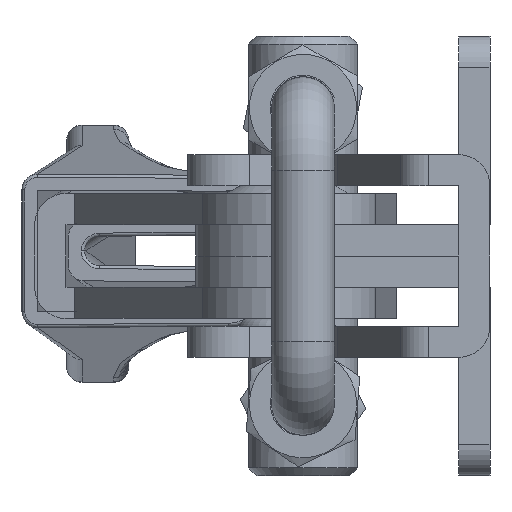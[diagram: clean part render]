
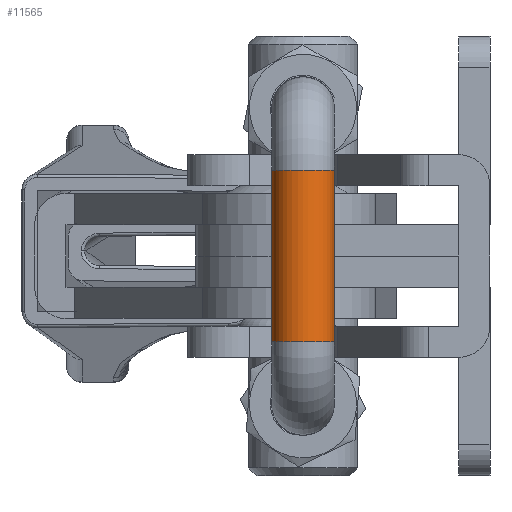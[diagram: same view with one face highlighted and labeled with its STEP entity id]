
A CAD part, left-side view. The second image highlights one B-rep face of the part: STEP entity #11565.
In plain terms, the highlighted cylindrical face has radius 2 mm (diameter 4 mm), a full revolution.
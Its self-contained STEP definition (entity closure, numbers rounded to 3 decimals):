
#1414=FACE_OUTER_BOUND('',#2063,.T.);
#2063=EDGE_LOOP('',(#8354,#8355,#8356,#8357,#8358,#8359,#8360));
#2691=CIRCLE('',#12444,2.);
#2692=CIRCLE('',#12445,2.);
#2693=CIRCLE('',#12446,2.);
#2694=CIRCLE('',#12448,2.);
#2695=CIRCLE('',#12449,2.);
#3005=LINE('',#34137,#3913);
#3913=VECTOR('',#13492,2.);
#4939=VERTEX_POINT('',#34128);
#4940=VERTEX_POINT('',#34130);
#4941=VERTEX_POINT('',#34132);
#4942=VERTEX_POINT('',#34136);
#4943=VERTEX_POINT('',#34138);
#6258=EDGE_CURVE('',#4939,#4940,#2691,.T.);
#6259=EDGE_CURVE('',#4940,#4941,#2692,.T.);
#6260=EDGE_CURVE('',#4941,#4939,#2693,.T.);
#6261=EDGE_CURVE('',#4941,#4942,#3005,.T.);
#6262=EDGE_CURVE('',#4942,#4943,#2694,.T.);
#6263=EDGE_CURVE('',#4943,#4942,#2695,.T.);
#8354=ORIENTED_EDGE('',*,*,#6259,.F.);
#8355=ORIENTED_EDGE('',*,*,#6258,.F.);
#8356=ORIENTED_EDGE('',*,*,#6260,.F.);
#8357=ORIENTED_EDGE('',*,*,#6261,.T.);
#8358=ORIENTED_EDGE('',*,*,#6262,.T.);
#8359=ORIENTED_EDGE('',*,*,#6263,.T.);
#8360=ORIENTED_EDGE('',*,*,#6261,.F.);
#11356=CYLINDRICAL_SURFACE('',#12447,2.);
#11565=ADVANCED_FACE('',(#1414),#11356,.T.);
#12444=AXIS2_PLACEMENT_3D('',#34131,#13484,#13485);
#12445=AXIS2_PLACEMENT_3D('',#34133,#13486,#13487);
#12446=AXIS2_PLACEMENT_3D('',#34134,#13488,#13489);
#12447=AXIS2_PLACEMENT_3D('',#34135,#13490,#13491);
#12448=AXIS2_PLACEMENT_3D('',#34139,#13493,#13494);
#12449=AXIS2_PLACEMENT_3D('',#34140,#13495,#13496);
#13484=DIRECTION('center_axis',(0.,1.,0.));
#13485=DIRECTION('ref_axis',(0.,0.,-1.));
#13486=DIRECTION('center_axis',(0.,1.,0.));
#13487=DIRECTION('ref_axis',(0.,0.,-1.));
#13488=DIRECTION('center_axis',(0.,1.,0.));
#13489=DIRECTION('ref_axis',(0.,0.,-1.));
#13490=DIRECTION('center_axis',(0.,1.,0.));
#13491=DIRECTION('ref_axis',(0.,0.,1.));
#13492=DIRECTION('',(0.,-1.,0.));
#13493=DIRECTION('center_axis',(0.,1.,0.));
#13494=DIRECTION('ref_axis',(0.,0.,-1.));
#13495=DIRECTION('center_axis',(0.,1.,0.));
#13496=DIRECTION('ref_axis',(0.,0.,-1.));
#34128=CARTESIAN_POINT('',(53.,15.,0.));
#34130=CARTESIAN_POINT('',(55.,15.,2.));
#34131=CARTESIAN_POINT('Origin',(55.,15.,0.));
#34132=CARTESIAN_POINT('',(55.,15.,-2.));
#34133=CARTESIAN_POINT('Origin',(55.,15.,0.));
#34134=CARTESIAN_POINT('Origin',(55.,15.,0.));
#34135=CARTESIAN_POINT('Origin',(55.,4.,0.));
#34136=CARTESIAN_POINT('',(55.,4.,-2.));
#34137=CARTESIAN_POINT('',(55.,4.,-2.));
#34138=CARTESIAN_POINT('',(53.,4.,0.));
#34139=CARTESIAN_POINT('Origin',(55.,4.,0.));
#34140=CARTESIAN_POINT('Origin',(55.,4.,0.));
